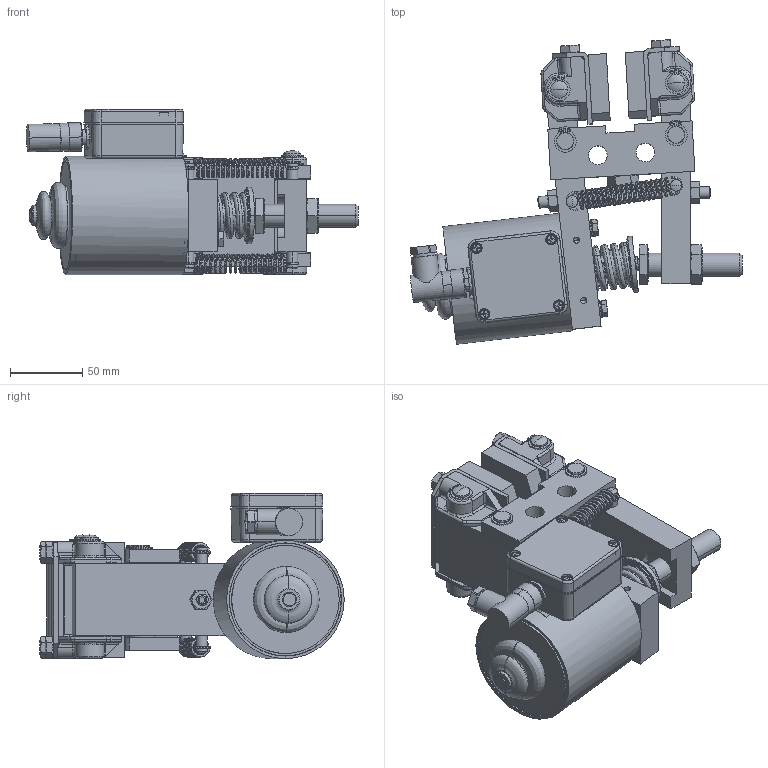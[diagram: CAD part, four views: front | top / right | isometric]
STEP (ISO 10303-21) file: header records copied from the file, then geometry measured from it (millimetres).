
FILE_DESCRIPTION((''),'2;1');
FILE_NAME('DH_012_FEM-4X0R-12_ASM','2019-09-18T',('BOLS'),(''),'CREO PARAMETRIC BY PTC INC, 2017020','CREO PARAMETRIC BY PTC INC, 2017020','');
FILE_SCHEMA(('CONFIG_CONTROL_DESIGN'));
Length unit declared in the file: millimetre
Products named in the file (57): 2475_100_001_000000_1_1; 2738_150_001_000000_1_1; 2738_177_001_000000_AF0_1; 5371_020_001_000000_1_1; 2476_081_001_A00001_1_1; 5184_008_010_000000_1_1; 2476_081_001_000000_ASM_1_1_ASM; 2472_005_013_HALTER_1_1; 2472_005_013_REIBEL_1_1; 2472_005_013_A00112_ASM_1_1_ASM; 5019_008_003_000000_1_1; 5124_021_001_000810_1_1; 2472_005_013_Z00112_ASM_1_1_ASM; 5204_012_119_000000_1_1; 5107_012_001_000000_1_1; 2711_012_625_000000_1_1; 3514_014_011_E20000_AF0_1; 3514_014_011_E51000_AF0_1; 3514_014_011_E52000_AF0_1; 3514_014_011_E30000_AF0_1; 3514_014_011_1010DP_AF0_1; 3514_014_011_E10000_AF0_1; 3514_014_011_E40000_AF0_1; 3514_014_021_FABAL1_AF0_1; 3514_014_011_4020DP_AF0_1; 3514_014_021_E71000_AF0_1; 3514_014_021_E72000_1_1; 3514_014_021_E73000_1_1; 3514_014_021_E70000_AF0_ASM_1_ASM; 5005_005_216_000000_AF0_1; 5005_005_216_000000_AF1_1; 3514_014_011_000000_AF0_ASM_1_ASM; 2791_042_104_000000_1_1; 5114_025_005_000000_1_1; 2722_026_601_00TEST_1_1; 5128_016_002_000000_1_1; 5236_008_003_000000_1_1; 5105_006_201_R00000_1_1; 5011_008_204_000000_1_1; 5101_008_301_000000_1_1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
Assembly tree (81 placements, depth 5):
  DH_012_FEM-4X0R-12_ASM
    4457_120_515_000000_ASM_1_ASM
      2475_100_001_000000_1_1
      2738_150_001_000000_1_1
      2738_177_001_000000_AF0_1
      5371_020_001_000000_1_1  x4
      2472_005_013_Z00112_ASM_1_1_ASM  x2
        2476_081_001_000000_ASM_1_1_ASM
          2476_081_001_A00001_1_1
          5184_008_010_000000_1_1  x2
        2472_005_013_A00112_ASM_1_1_ASM
          2472_005_013_HALTER_1_1
          2472_005_013_REIBEL_1_1
        5019_008_003_000000_1_1
        5124_021_001_000810_1_1
      5204_012_119_000000_1_1  x2
      5107_012_001_000000_1_1  x4
      2711_012_625_000000_1_1  x2
      3514_014_011_000000_AF0_ASM_1_ASM
        3514_014_011_E20000_AF0_1
        3514_014_011_E51000_AF0_1
        3514_014_011_E52000_AF0_1
        3514_014_011_E30000_AF0_1
        3514_014_011_1010DP_AF0_1
        3514_014_011_E10000_AF0_1
        3514_014_011_E40000_AF0_1
        3514_014_021_FABAL1_AF0_1
        3514_014_011_4020DP_AF0_1
        3514_014_021_E70000_AF0_ASM_1_ASM
          3514_014_021_E71000_AF0_1
          3514_014_021_E72000_1_1
          3514_014_021_E73000_1_1  x4
        5005_005_216_000000_AF0_1
        5005_005_216_000000_AF1_1
      2791_042_104_000000_1_1
      5114_025_005_000000_1_1  x2
      2722_026_601_00TEST_1_1
      5128_016_002_000000_1_1
      5236_008_003_000000_1_1  x4
      5105_006_201_R00000_1_1  x2
      5011_008_204_000000_1_1  x2
      5101_008_301_000000_1_1  x2
      5102_012_001_000810_1_1
      2701_012_015_000000_AF0_1
      5019_000_012_035502_1_1
      5019_006_108_000000_AF0_1
      5019_006_108_000000_AF1_1
      5139_016_103_000000_1_1
      2701_005_045_000000_AF0_1
      3514_014_021_E70000_AF1_ASM_1_ASM
        3514_014_021_E71000_AF1_1
        3514_014_021_E72000_1
        3514_014_021_E73000_1  x4
      5003_004_001_000000_1_1  x2
      2701_012_015_000000_AF1_1
    FLANSCHSTECKER_LITZEN
    WINKELDOSE_4POL
Bounding box: 229.96 x 210.9 x 114.5 mm (x, y, z)
Volume: 862095.4 mm3; surface area: 386710 mm2
Topology: 78 solids, 78 shells, 2335 faces, 5827 edges, 3715 vertices
Faces by surface type: plane 937, cylinder 746, cone 398, torus 144, bspline 66, sphere 38, revolution 6
Entity records: 75708 total; most frequent: CARTESIAN_POINT 21111, DIRECTION 9065, ORIENTED_EDGE 8134, PRESENTATION_STYLE_ASSIGNMENT 4157, STYLED_ITEM 4135, CURVE_STYLE 4073, EDGE_CURVE 4067, AXIS2_PLACEMENT_3D 3579
